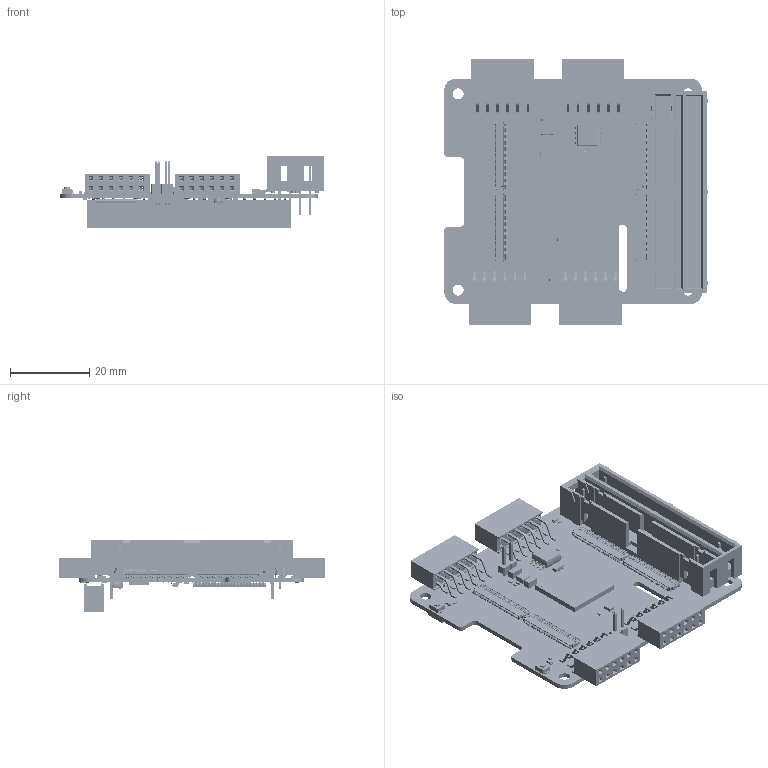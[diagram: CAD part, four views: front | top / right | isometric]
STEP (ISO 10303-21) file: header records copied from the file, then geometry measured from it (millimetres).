
FILE_DESCRIPTION(('Open CASCADE Model'),'2;1');
FILE_NAME('Open CASCADE Shape Model','2025-02-10T09:28:19',('Author'),( 'Open CASCADE'),'Open CASCADE STEP processor 7.5','Open CASCADE 7.5' ,'Unknown');
FILE_SCHEMA(('AUTOMOTIVE_DESIGN { 1 0 10303 214 1 1 1 1 }'));
Length unit declared in the file: millimetre
Products named in the file (136): PCB; Board=projectname; Open CASCADE STEP translator 7.5 1.1.1; R17=projectname; 7668746096; R16=projectname; 7979355104; C10=projectname; User Library-SMD 0201 CAPACITOR; C9=projectname; C8=projectname; R9=projectname; R14=projectname; 7668751616; R11=projectname; R10=projectname; C7=projectname; User Library-CAPC3216X___CAPC3216X180N; R8=projectname; PM6=projectname; 10688354928; Cylinder; PM5=projectname; 15067591712; PM4=projectname; PM3=projectname; PM2=projectname; PM1=projectname; U12=projectname; 14845029376; U5=projectname; 15065699184; 7979150512; Extruded; U3=projectname; 7979357264; 7979357024; J6=projectname; 34-09185346329; J7=projectname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
Assembly tree (198 placements, depth 4):
  PCB
    Board=projectname
      Open CASCADE STEP translator 7.5 1.1.1
    R17=projectname
      7668746096
    R16=projectname
      7979355104
    C10=projectname
      User Library-SMD 0201 CAPACITOR
    C9=projectname
      User Library-SMD 0201 CAPACITOR
    C8=projectname
      User Library-SMD 0201 CAPACITOR
    R9=projectname
      7668746096
    R14=projectname
      7668751616
    R11=projectname
      7668751616
    R10=projectname
      7668751616
    C7=projectname
      User Library-CAPC3216X___CAPC3216X180N
    R8=projectname
      7979355104
    PM6=projectname
      10688354928
        Cylinder
    PM5=projectname
      15067591712
        Cylinder
    PM4=projectname
      10688354928
        Cylinder
    PM3=projectname
      15067591712
        Cylinder
    PM2=projectname
      10688354928
        Cylinder
    PM1=projectname
      15067591712
        Cylinder
    U12=projectname
      14845029376
    U5=projectname
      15065699184
        Cylinder
      7979150512
        Extruded
    U3=projectname
      7979357264
        Extruded
      7979357024
        Cylinder
    J6=projectname
      34-09185346329
    J7=projectname
      34-09185346329
    D2=projectname
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Bounding box: 66.43 x 66.92 x 18.19 mm (x, y, z)
Volume: 12616.4 mm3; surface area: 27663.7 mm2
Topology: 267 solids, 267 shells, 35171 faces, 106946 edges, 70062 vertices
Faces by surface type: plane 26992, cylinder 5322, bspline 2495, sphere 336, torus 18, cone 8
Full cylindrical faces by diameter (mm): 0.4 x2, 0.6 x1, 0.8 x1, 1 x78, 1.2 x11, 1.4 x8, 2.75 x4
Entity records: 516646 total; most frequent: CARTESIAN_POINT 134508, ORIENTED_EDGE 76450, DIRECTION 56556, EDGE_CURVE 38225, LINE 28978, VECTOR 28978, VERTEX_POINT 24839, AXIS2_PLACEMENT_3D 13789
